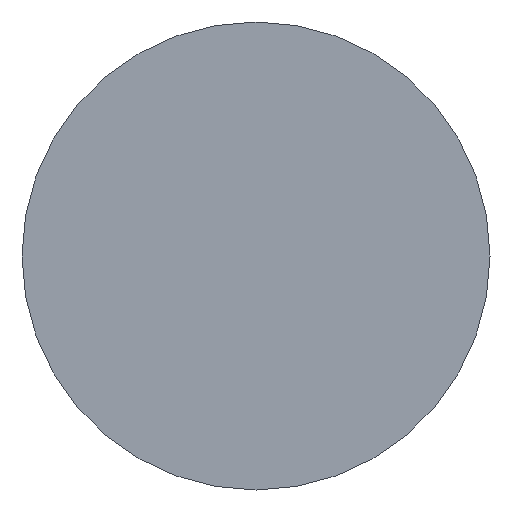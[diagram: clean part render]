
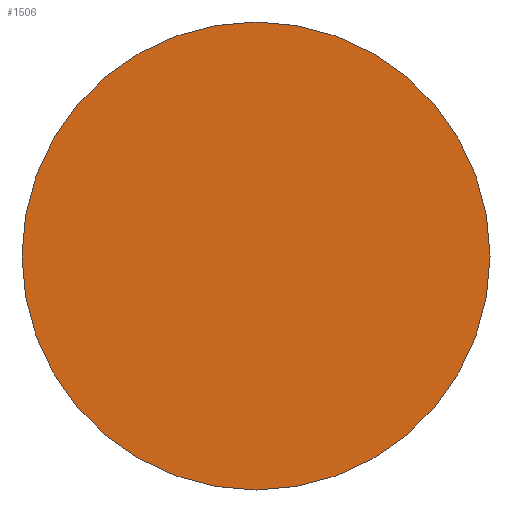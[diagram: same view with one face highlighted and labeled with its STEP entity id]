
A CAD part, front view. The second image highlights one B-rep face of the part: STEP entity #1506.
In plain terms, the highlighted planar face has unit normal (0, -1, 0).
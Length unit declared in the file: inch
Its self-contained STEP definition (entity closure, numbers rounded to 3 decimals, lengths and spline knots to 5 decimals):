
#106 = AXIS2_PLACEMENT_3D ( 'NONE', #419, #1387, #284 ) ;
#139 = EDGE_CURVE ( 'NONE', #1379, #368, #1537, .T. ) ;
#284 = DIRECTION ( 'NONE',  ( 0., 0., -1. ) ) ;
#295 = ORIENTED_EDGE ( 'NONE', *, *, #139, .T. ) ;
#368 = VERTEX_POINT ( 'NONE', #1339 ) ;
#383 = DIRECTION ( 'NONE',  ( 0., -1., 0. ) ) ;
#419 = CARTESIAN_POINT ( 'NONE',  ( 0., -0.087, 0. ) ) ;
#480 = DIRECTION ( 'NONE',  ( 0., 0., -1. ) ) ;
#668 = DIRECTION ( 'NONE',  ( 0., 0., -1. ) ) ;
#722 = ORIENTED_EDGE ( 'NONE', *, *, #1305, .T. ) ;
#731 = CIRCLE ( 'NONE', #1560, 0.625 ) ;
#1031 = EDGE_LOOP ( 'NONE', ( #295, #722 ) ) ;
#1201 = AXIS2_PLACEMENT_3D ( 'NONE', #1484, #383, #480 ) ;
#1247 = PLANE ( 'NONE',  #106 ) ;
#1289 = DIRECTION ( 'NONE',  ( 0., -1., 0. ) ) ;
#1305 = EDGE_CURVE ( 'NONE', #368, #1379, #731, .T. ) ;
#1308 = CARTESIAN_POINT ( 'NONE',  ( 0., -0.087, 0.625 ) ) ;
#1339 = CARTESIAN_POINT ( 'NONE',  ( 0., -0.087, -0.625 ) ) ;
#1379 = VERTEX_POINT ( 'NONE', #1308 ) ;
#1387 = DIRECTION ( 'NONE',  ( 0., -1., 0. ) ) ;
#1484 = CARTESIAN_POINT ( 'NONE',  ( 0., -0.087, 0. ) ) ;
#1506 = ADVANCED_FACE ( 'NONE', ( #1520 ), #1247, .T. ) ;
#1520 = FACE_OUTER_BOUND ( 'NONE', #1031, .T. ) ;
#1532 = CARTESIAN_POINT ( 'NONE',  ( 0., -0.087, 0. ) ) ;
#1537 = CIRCLE ( 'NONE', #1201, 0.625 ) ;
#1560 = AXIS2_PLACEMENT_3D ( 'NONE', #1532, #1289, #668 ) ;
